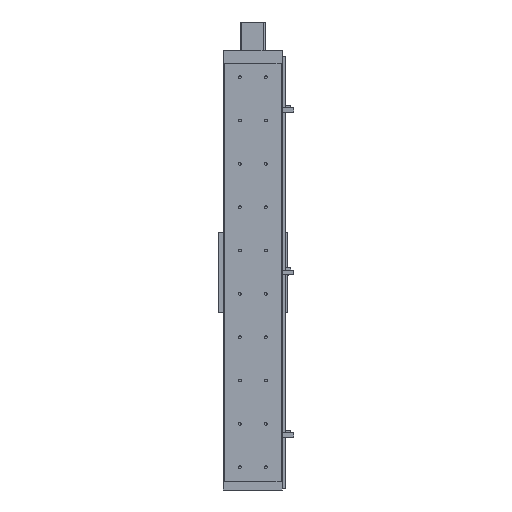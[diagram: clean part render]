
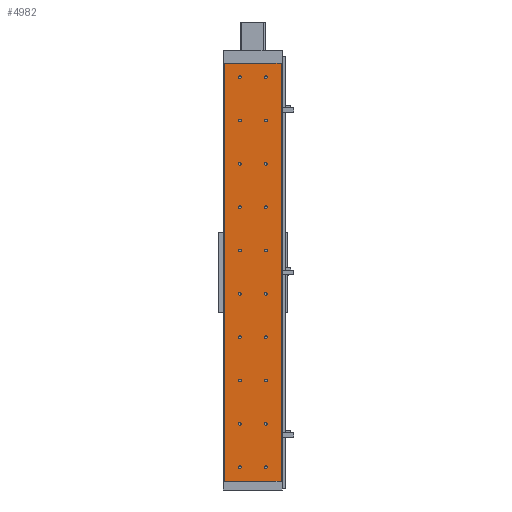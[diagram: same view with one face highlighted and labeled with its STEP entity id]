
A CAD part, front view. The second image highlights one B-rep face of the part: STEP entity #4982.
In plain terms, the highlighted planar face has unit normal (0, -1, 0).
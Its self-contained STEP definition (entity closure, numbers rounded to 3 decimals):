
#2214=CARTESIAN_POINT('',(26.75,0.0,32.5));
#2215=VERTEX_POINT('',#2214);
#2216=CARTESIAN_POINT('',(30.,0.0,32.5));
#2217=DIRECTION('',(0.0,1.0,0.0));
#2218=DIRECTION('',(1.0,0.0,0.0));
#2219=AXIS2_PLACEMENT_3D('',#2216,#2217,#2218);
#2220=CIRCLE('',#2219,3.25);
#2221=EDGE_CURVE('',#2215,#2215,#2220,.T.);
#2255=CARTESIAN_POINT('',(-33.25,0.0,32.5));
#2256=VERTEX_POINT('',#2255);
#2257=CARTESIAN_POINT('',(-30.,0.0,32.5));
#2258=DIRECTION('',(0.0,1.0,0.0));
#2259=DIRECTION('',(1.0,0.0,0.0));
#2260=AXIS2_PLACEMENT_3D('',#2257,#2258,#2259);
#2261=CIRCLE('',#2260,3.25);
#2262=EDGE_CURVE('',#2256,#2256,#2261,.T.);
#2434=CARTESIAN_POINT('',(26.75,0.0,132.5));
#2435=VERTEX_POINT('',#2434);
#2436=CARTESIAN_POINT('',(30.,0.0,132.5));
#2437=DIRECTION('',(0.0,1.0,0.0));
#2438=DIRECTION('',(1.0,0.0,0.0));
#2439=AXIS2_PLACEMENT_3D('',#2436,#2437,#2438);
#2440=CIRCLE('',#2439,3.25);
#2441=EDGE_CURVE('',#2435,#2435,#2440,.T.);
#2475=CARTESIAN_POINT('',(-33.25,0.0,132.5));
#2476=VERTEX_POINT('',#2475);
#2477=CARTESIAN_POINT('',(-30.,0.0,132.5));
#2478=DIRECTION('',(0.0,1.0,0.0));
#2479=DIRECTION('',(1.0,0.0,0.0));
#2480=AXIS2_PLACEMENT_3D('',#2477,#2478,#2479);
#2481=CIRCLE('',#2480,3.25);
#2482=EDGE_CURVE('',#2476,#2476,#2481,.T.);
#2654=CARTESIAN_POINT('',(26.75,0.0,232.5));
#2655=VERTEX_POINT('',#2654);
#2656=CARTESIAN_POINT('',(30.,0.0,232.5));
#2657=DIRECTION('',(0.0,1.0,0.0));
#2658=DIRECTION('',(1.0,0.0,0.0));
#2659=AXIS2_PLACEMENT_3D('',#2656,#2657,#2658);
#2660=CIRCLE('',#2659,3.25);
#2661=EDGE_CURVE('',#2655,#2655,#2660,.T.);
#2695=CARTESIAN_POINT('',(-33.25,0.0,232.5));
#2696=VERTEX_POINT('',#2695);
#2697=CARTESIAN_POINT('',(-30.,0.0,232.5));
#2698=DIRECTION('',(0.0,1.0,0.0));
#2699=DIRECTION('',(1.0,0.0,0.0));
#2700=AXIS2_PLACEMENT_3D('',#2697,#2698,#2699);
#2701=CIRCLE('',#2700,3.25);
#2702=EDGE_CURVE('',#2696,#2696,#2701,.T.);
#2874=CARTESIAN_POINT('',(26.75,0.0,332.5));
#2875=VERTEX_POINT('',#2874);
#2876=CARTESIAN_POINT('',(30.,0.0,332.5));
#2877=DIRECTION('',(0.0,1.0,0.0));
#2878=DIRECTION('',(1.0,0.0,0.0));
#2879=AXIS2_PLACEMENT_3D('',#2876,#2877,#2878);
#2880=CIRCLE('',#2879,3.25);
#2881=EDGE_CURVE('',#2875,#2875,#2880,.T.);
#2915=CARTESIAN_POINT('',(-33.25,0.0,332.5));
#2916=VERTEX_POINT('',#2915);
#2917=CARTESIAN_POINT('',(-30.,0.0,332.5));
#2918=DIRECTION('',(0.0,1.0,0.0));
#2919=DIRECTION('',(1.0,0.0,0.0));
#2920=AXIS2_PLACEMENT_3D('',#2917,#2918,#2919);
#2921=CIRCLE('',#2920,3.25);
#2922=EDGE_CURVE('',#2916,#2916,#2921,.T.);
#3025=CARTESIAN_POINT('',(-33.25,0.0,632.5));
#3026=VERTEX_POINT('',#3025);
#3027=CARTESIAN_POINT('',(-30.,0.0,632.5));
#3028=DIRECTION('',(0.0,1.0,0.0));
#3029=DIRECTION('',(1.0,0.0,0.0));
#3030=AXIS2_PLACEMENT_3D('',#3027,#3028,#3029);
#3031=CIRCLE('',#3030,3.25);
#3032=EDGE_CURVE('',#3026,#3026,#3031,.T.);
#3204=CARTESIAN_POINT('',(26.75,0.0,632.5));
#3205=VERTEX_POINT('',#3204);
#3206=CARTESIAN_POINT('',(30.,0.0,632.5));
#3207=DIRECTION('',(0.0,1.0,0.0));
#3208=DIRECTION('',(1.0,0.0,0.0));
#3209=AXIS2_PLACEMENT_3D('',#3206,#3207,#3208);
#3210=CIRCLE('',#3209,3.25);
#3211=EDGE_CURVE('',#3205,#3205,#3210,.T.);
#3245=CARTESIAN_POINT('',(-33.25,0.0,732.5));
#3246=VERTEX_POINT('',#3245);
#3247=CARTESIAN_POINT('',(-30.,0.0,732.5));
#3248=DIRECTION('',(0.0,1.0,0.0));
#3249=DIRECTION('',(1.0,0.0,0.0));
#3250=AXIS2_PLACEMENT_3D('',#3247,#3248,#3249);
#3251=CIRCLE('',#3250,3.25);
#3252=EDGE_CURVE('',#3246,#3246,#3251,.T.);
#3424=CARTESIAN_POINT('',(26.75,0.0,732.5));
#3425=VERTEX_POINT('',#3424);
#3426=CARTESIAN_POINT('',(30.,0.0,732.5));
#3427=DIRECTION('',(0.0,1.0,0.0));
#3428=DIRECTION('',(1.0,0.0,0.0));
#3429=AXIS2_PLACEMENT_3D('',#3426,#3427,#3428);
#3430=CIRCLE('',#3429,3.25);
#3431=EDGE_CURVE('',#3425,#3425,#3430,.T.);
#3465=CARTESIAN_POINT('',(-33.25,0.0,832.5));
#3466=VERTEX_POINT('',#3465);
#3467=CARTESIAN_POINT('',(-30.,0.0,832.5));
#3468=DIRECTION('',(0.0,1.0,0.0));
#3469=DIRECTION('',(1.0,0.0,0.0));
#3470=AXIS2_PLACEMENT_3D('',#3467,#3468,#3469);
#3471=CIRCLE('',#3470,3.25);
#3472=EDGE_CURVE('',#3466,#3466,#3471,.T.);
#3644=CARTESIAN_POINT('',(26.75,0.0,832.5));
#3645=VERTEX_POINT('',#3644);
#3646=CARTESIAN_POINT('',(30.,0.0,832.5));
#3647=DIRECTION('',(0.0,1.0,0.0));
#3648=DIRECTION('',(1.0,0.0,0.0));
#3649=AXIS2_PLACEMENT_3D('',#3646,#3647,#3648);
#3650=CIRCLE('',#3649,3.25);
#3651=EDGE_CURVE('',#3645,#3645,#3650,.T.);
#3685=CARTESIAN_POINT('',(-33.25,0.0,932.5));
#3686=VERTEX_POINT('',#3685);
#3687=CARTESIAN_POINT('',(-30.,0.0,932.5));
#3688=DIRECTION('',(0.0,1.0,0.0));
#3689=DIRECTION('',(1.0,0.0,0.0));
#3690=AXIS2_PLACEMENT_3D('',#3687,#3688,#3689);
#3691=CIRCLE('',#3690,3.25);
#3692=EDGE_CURVE('',#3686,#3686,#3691,.T.);
#3864=CARTESIAN_POINT('',(26.75,0.0,932.5));
#3865=VERTEX_POINT('',#3864);
#3866=CARTESIAN_POINT('',(30.,0.0,932.5));
#3867=DIRECTION('',(0.0,1.0,0.0));
#3868=DIRECTION('',(1.0,0.0,0.0));
#3869=AXIS2_PLACEMENT_3D('',#3866,#3867,#3868);
#3870=CIRCLE('',#3869,3.25);
#3871=EDGE_CURVE('',#3865,#3865,#3870,.T.);
#3905=CARTESIAN_POINT('',(-33.25,0.0,432.5));
#3906=VERTEX_POINT('',#3905);
#3907=CARTESIAN_POINT('',(-30.,0.0,432.5));
#3908=DIRECTION('',(0.0,1.0,0.0));
#3909=DIRECTION('',(1.0,0.0,0.0));
#3910=AXIS2_PLACEMENT_3D('',#3907,#3908,#3909);
#3911=CIRCLE('',#3910,3.25);
#3912=EDGE_CURVE('',#3906,#3906,#3911,.T.);
#4084=CARTESIAN_POINT('',(26.75,0.0,432.5));
#4085=VERTEX_POINT('',#4084);
#4086=CARTESIAN_POINT('',(30.,0.0,432.5));
#4087=DIRECTION('',(0.0,1.0,0.0));
#4088=DIRECTION('',(1.0,0.0,0.0));
#4089=AXIS2_PLACEMENT_3D('',#4086,#4087,#4088);
#4090=CIRCLE('',#4089,3.25);
#4091=EDGE_CURVE('',#4085,#4085,#4090,.T.);
#4194=CARTESIAN_POINT('',(26.75,0.0,532.5));
#4195=VERTEX_POINT('',#4194);
#4196=CARTESIAN_POINT('',(30.,0.0,532.5));
#4197=DIRECTION('',(0.0,1.0,0.0));
#4198=DIRECTION('',(1.0,0.0,0.0));
#4199=AXIS2_PLACEMENT_3D('',#4196,#4197,#4198);
#4200=CIRCLE('',#4199,3.25);
#4201=EDGE_CURVE('',#4195,#4195,#4200,.T.);
#4304=CARTESIAN_POINT('',(-33.25,0.0,532.5));
#4305=VERTEX_POINT('',#4304);
#4306=CARTESIAN_POINT('',(-30.,0.0,532.5));
#4307=DIRECTION('',(0.0,1.0,0.0));
#4308=DIRECTION('',(1.0,0.0,0.0));
#4309=AXIS2_PLACEMENT_3D('',#4306,#4307,#4308);
#4310=CIRCLE('',#4309,3.25);
#4311=EDGE_CURVE('',#4305,#4305,#4310,.T.);
#4638=CARTESIAN_POINT('',(65.0,0.0,0.0));
#4639=VERTEX_POINT('',#4638);
#4646=CARTESIAN_POINT('',(-65.0,0.0,0.0));
#4647=VERTEX_POINT('',#4646);
#4648=CARTESIAN_POINT('',(-65.0,0.0,0.0));
#4649=DIRECTION('',(1.0,0.0,0.0));
#4650=VECTOR('',#4649,130.0);
#4651=LINE('',#4648,#4650);
#4652=EDGE_CURVE('',#4647,#4639,#4651,.T.);
#4842=CARTESIAN_POINT('',(-65.0,0.0,965.0));
#4843=VERTEX_POINT('',#4842);
#4850=CARTESIAN_POINT('',(65.0,0.0,965.0));
#4851=VERTEX_POINT('',#4850);
#4852=CARTESIAN_POINT('',(65.0,0.0,965.0));
#4853=DIRECTION('',(-1.0,0.0,0.0));
#4854=VECTOR('',#4853,130.0);
#4855=LINE('',#4852,#4854);
#4856=EDGE_CURVE('',#4851,#4843,#4855,.T.);
#4879=CARTESIAN_POINT('',(-65.0,0.0,0.0));
#4880=DIRECTION('',(0.0,0.0,1.0));
#4881=VECTOR('',#4880,965.0);
#4882=LINE('',#4879,#4881);
#4883=EDGE_CURVE('',#4647,#4843,#4882,.T.);
#4901=CARTESIAN_POINT('',(65.0,0.0,0.0));
#4902=DIRECTION('',(0.0,0.0,1.0));
#4903=VECTOR('',#4902,965.0);
#4904=LINE('',#4901,#4903);
#4905=EDGE_CURVE('',#4639,#4851,#4904,.T.);
#4911=CARTESIAN_POINT('',(65.0,0.0,0.0));
#4912=DIRECTION('',(0.0,-1.0,0.0));
#4913=DIRECTION('',(0.0,0.0,-1.0));
#4914=AXIS2_PLACEMENT_3D('',#4911,#4912,#4913);
#4915=PLANE('',#4914);
#4916=ORIENTED_EDGE('',*,*,#4856,.T.);
#4917=ORIENTED_EDGE('',*,*,#4883,.F.);
#4918=ORIENTED_EDGE('',*,*,#4652,.T.);
#4919=ORIENTED_EDGE('',*,*,#4905,.T.);
#4920=EDGE_LOOP('',(#4916,#4917,#4918,#4919));
#4921=FACE_OUTER_BOUND('',#4920,.T.);
#4922=ORIENTED_EDGE('',*,*,#2221,.T.);
#4923=EDGE_LOOP('',(#4922));
#4924=FACE_BOUND('',#4923,.T.);
#4925=ORIENTED_EDGE('',*,*,#2262,.T.);
#4926=EDGE_LOOP('',(#4925));
#4927=FACE_BOUND('',#4926,.T.);
#4928=ORIENTED_EDGE('',*,*,#2441,.T.);
#4929=EDGE_LOOP('',(#4928));
#4930=FACE_BOUND('',#4929,.T.);
#4931=ORIENTED_EDGE('',*,*,#2482,.T.);
#4932=EDGE_LOOP('',(#4931));
#4933=FACE_BOUND('',#4932,.T.);
#4934=ORIENTED_EDGE('',*,*,#2661,.T.);
#4935=EDGE_LOOP('',(#4934));
#4936=FACE_BOUND('',#4935,.T.);
#4937=ORIENTED_EDGE('',*,*,#2702,.T.);
#4938=EDGE_LOOP('',(#4937));
#4939=FACE_BOUND('',#4938,.T.);
#4940=ORIENTED_EDGE('',*,*,#2881,.T.);
#4941=EDGE_LOOP('',(#4940));
#4942=FACE_BOUND('',#4941,.T.);
#4943=ORIENTED_EDGE('',*,*,#2922,.T.);
#4944=EDGE_LOOP('',(#4943));
#4945=FACE_BOUND('',#4944,.T.);
#4946=ORIENTED_EDGE('',*,*,#3032,.T.);
#4947=EDGE_LOOP('',(#4946));
#4948=FACE_BOUND('',#4947,.T.);
#4949=ORIENTED_EDGE('',*,*,#3211,.T.);
#4950=EDGE_LOOP('',(#4949));
#4951=FACE_BOUND('',#4950,.T.);
#4952=ORIENTED_EDGE('',*,*,#3252,.T.);
#4953=EDGE_LOOP('',(#4952));
#4954=FACE_BOUND('',#4953,.T.);
#4955=ORIENTED_EDGE('',*,*,#3431,.T.);
#4956=EDGE_LOOP('',(#4955));
#4957=FACE_BOUND('',#4956,.T.);
#4958=ORIENTED_EDGE('',*,*,#3472,.T.);
#4959=EDGE_LOOP('',(#4958));
#4960=FACE_BOUND('',#4959,.T.);
#4961=ORIENTED_EDGE('',*,*,#3651,.T.);
#4962=EDGE_LOOP('',(#4961));
#4963=FACE_BOUND('',#4962,.T.);
#4964=ORIENTED_EDGE('',*,*,#3692,.T.);
#4965=EDGE_LOOP('',(#4964));
#4966=FACE_BOUND('',#4965,.T.);
#4967=ORIENTED_EDGE('',*,*,#3871,.T.);
#4968=EDGE_LOOP('',(#4967));
#4969=FACE_BOUND('',#4968,.T.);
#4970=ORIENTED_EDGE('',*,*,#3912,.T.);
#4971=EDGE_LOOP('',(#4970));
#4972=FACE_BOUND('',#4971,.T.);
#4973=ORIENTED_EDGE('',*,*,#4091,.T.);
#4974=EDGE_LOOP('',(#4973));
#4975=FACE_BOUND('',#4974,.T.);
#4976=ORIENTED_EDGE('',*,*,#4201,.T.);
#4977=EDGE_LOOP('',(#4976));
#4978=FACE_BOUND('',#4977,.T.);
#4979=ORIENTED_EDGE('',*,*,#4311,.T.);
#4980=EDGE_LOOP('',(#4979));
#4981=FACE_BOUND('',#4980,.T.);
#4982=ADVANCED_FACE('',(#4921,#4924,#4927,#4930,#4933,#4936,#4939,#4942,#4945,#4948,#4951,#4954,#4957,#4960,#4963,#4966,#4969,#4972,#4975,#4978,#4981),#4915,.T.);
